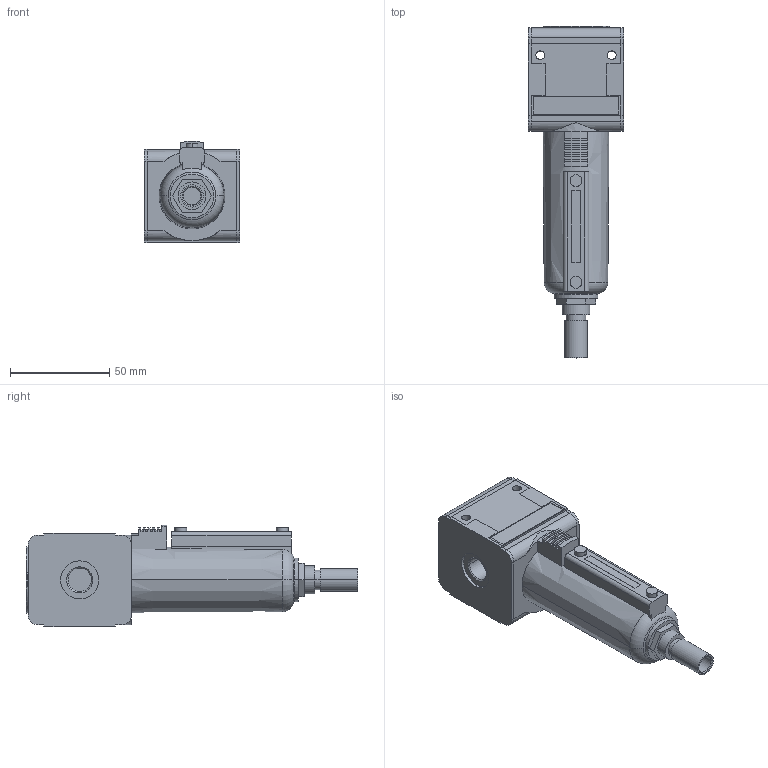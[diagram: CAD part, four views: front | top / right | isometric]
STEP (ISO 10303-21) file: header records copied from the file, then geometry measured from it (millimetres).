
FILE_DESCRIPTION((''),'2;1');
FILE_NAME('R412010790_ASM','2019-02-21T',('PDH2HC'),(''),'CREO PARAMETRIC BY PTC INC, 2016260','CREO PARAMETRIC BY PTC INC, 2016260','');
FILE_SCHEMA(('CONFIG_CONTROL_DESIGN'));
Length unit declared in the file: millimetre
Products named in the file (4): R412010790-A; R412010790-B; R412010790-D; R412010790_ASM
Assembly tree (4 placements, depth 2):
  R412010790_ASM
    R412010790-A
    R412010790-B
    R412010790-D  x2
Bounding box: 48 x 167 x 50.93 mm (x, y, z)
Volume: 190891.1 mm3; surface area: 39801.9 mm2
Topology: 4 solids, 4 shells, 216 faces, 561 edges, 370 vertices
Faces by surface type: plane 143, cylinder 61, cone 10, torus 2
Entity records: 5960 total; most frequent: CARTESIAN_POINT 1132, DIRECTION 996, ORIENTED_EDGE 966, EDGE_CURVE 483, VECTOR 346, LINE 346, AXIS2_PLACEMENT_3D 325, VERTEX_POINT 318
